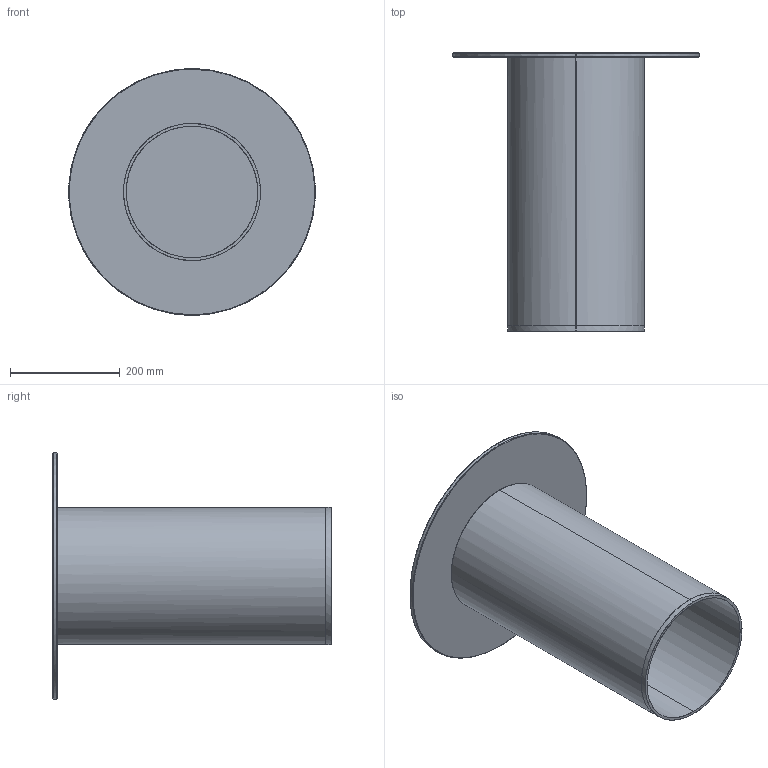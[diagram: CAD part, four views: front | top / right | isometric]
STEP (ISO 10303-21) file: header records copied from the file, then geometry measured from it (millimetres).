
FILE_DESCRIPTION(/* description */ (''),/* implementation_level */ '2;1');
FILE_NAME(/* name */ 'GLASS TABLE ALTA',/* time_stamp */ '2022-07-01T08:55:36+02:00',/* author */ (''),/* organization */ (''),/* preprocessor_version */ 'ST-DEVELOPER v16.5',/* originating_system */ '',/* authorisation */ '');
FILE_SCHEMA (('AUTOMOTIVE_DESIGN'));
Length unit declared in the file: millimetre
Products named in the file (1): Document
Bounding box: 449.3 x 508 x 450 mm (x, y, z)
Surface area: 1105382.2 mm2 (no closed solid volume)
Topology: 0 solids, 17 shells, 17 faces, 56 edges, 56 vertices
Faces by surface type: bspline 12, plane 5
Entity records: 993 total; most frequent: CARTESIAN_POINT 519, ORIENTED_EDGE 56, EDGE_CURVE 56, VERTEX_POINT 56, B_SPLINE_CURVE_WITH_KNOTS 24, EDGE_LOOP 20, COLOUR_RGB 17, FILL_AREA_STYLE_COLOUR 17
